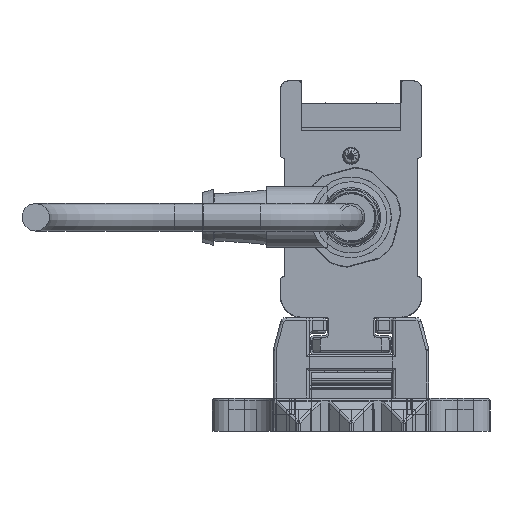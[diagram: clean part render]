
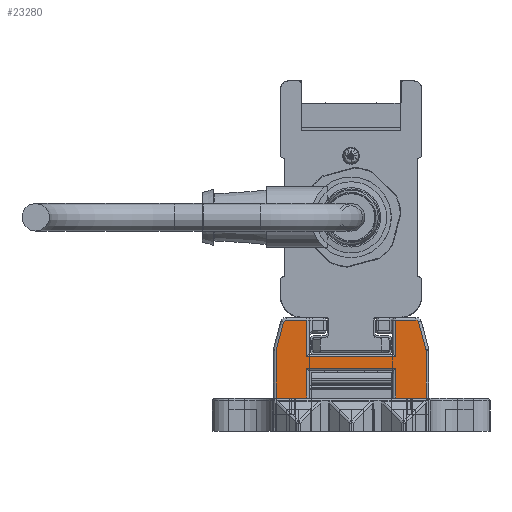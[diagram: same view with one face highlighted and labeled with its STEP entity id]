
A CAD part, left-side view. The second image highlights one B-rep face of the part: STEP entity #23280.
In plain terms, the highlighted planar face has unit normal (-1, 0, 0).
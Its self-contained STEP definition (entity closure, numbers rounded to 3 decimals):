
#23280=ADVANCED_FACE('', (#23290), #23300, .T.);
#141290=AXIS2_PLACEMENT_3D('Ax2Pl3d', #141300, #141310, #141320);
#141530=AXIS2_PLACEMENT_3D('Ax2Pl3d', #141540, #141550, #141560);
#146410=AXIS2_PLACEMENT_3D('Ax2Pl3d', #146420, #146430, #146440);
#151490=AXIS2_PLACEMENT_3D('Ax2Pl3d', #151500, #151510, #151520);
#161170=AXIS2_PLACEMENT_3D('Ax2Pl3d', #161180, #161190, #161200);
#583560=CARTESIAN_POINT('', (-747.669,-3686.345,
331.37));
#141300=CARTESIAN_POINT('HicPkt', (-747.669,-3685.379,
331.111));
#583570=CARTESIAN_POINT('', (-747.669,-3686.379,
331.111));
#583580=CARTESIAN_POINT('', (-747.669,-3685.037,336.255)
);
#583600=CARTESIAN_POINT('', (-747.669,-3685.037,336.255)
);
#583630=CARTESIAN_POINT('', (-747.669,-3684.554,
336.625));
#141540=CARTESIAN_POINT('HicPkt', (-747.669,-3684.554,
336.125));
#583850=CARTESIAN_POINT('', (-747.669,-3686.379,
322.625));
#583860=CARTESIAN_POINT('', (-747.669,-3680.881,
322.625));
#583870=CARTESIAN_POINT('', (-747.669,-3680.881,
322.625));
#583950=CARTESIAN_POINT('', (-747.669,-3664.881,
322.625));
#583960=CARTESIAN_POINT('', (-747.669,-3659.383,
322.625));
#583970=CARTESIAN_POINT('', (-747.669,-3659.383,
322.625));
#146420=CARTESIAN_POINT('HicPkt', (-747.669,-3661.209,
336.125));
#586440=CARTESIAN_POINT('', (-747.669,-3660.726,
336.255));
#586450=CARTESIAN_POINT('', (-747.669,-3661.209,
336.625));
#586460=CARTESIAN_POINT('', (-747.669,-3680.881,
330.025));
#586470=CARTESIAN_POINT('', (-747.669,-3664.881,330.025)
);
#586480=CARTESIAN_POINT('', (-747.669,-3680.881,
330.025));
#586640=CARTESIAN_POINT('', (-747.669,-3680.881,
328.005));
#586650=CARTESIAN_POINT('', (-747.669,-3664.881,
328.005));
#586660=CARTESIAN_POINT('', (-747.669,-3664.881,
328.005));
#586670=CARTESIAN_POINT('', (-747.669,-3680.881,
328.005));
#586690=CARTESIAN_POINT('', (-747.669,-3664.881,
322.625));
#586700=CARTESIAN_POINT('', (-747.669,-3664.881,330.025)
);
#586710=CARTESIAN_POINT('', (-747.669,-3664.881,
336.625));
#587560=CARTESIAN_POINT('', (-747.669,-3664.881,
336.625));
#587570=CARTESIAN_POINT('', (-747.669,-3660.726,
336.255));
#587580=CARTESIAN_POINT('', (-747.669,-3659.417,
331.37));
#587770=CARTESIAN_POINT('', (-747.669,-3659.383,
331.111));
#587780=CARTESIAN_POINT('', (-747.669,-3659.383,
331.111));
#151500=CARTESIAN_POINT('HicPkt', (-747.669,-3660.383,
331.111));
#588590=CARTESIAN_POINT('', (-747.669,-3686.379,
331.111));
#161180=CARTESIAN_POINT('HicPkt', (-747.669,-3684.554,
336.625));
#590390=CARTESIAN_POINT('', (-747.669,-3680.881,
336.625));
#590400=CARTESIAN_POINT('', (-747.669,-3680.881,
336.625));
#590410=CARTESIAN_POINT('', (-747.669,-3680.881,
336.625));
#675070=CIRCLE('Circle', #141290, 1.);
#675110=CIRCLE('Circle', #141530, 0.5);
#675690=CIRCLE('Circle', #146410, 0.5);
#676220=CIRCLE('Circle', #151490, 1.);
#141310=DIRECTION('Axis', (-1.,0.,
0.));
#141320=DIRECTION('RefDirection', (0.,
0.,-1.));
#942570=DIRECTION('', (0.,0.259,
0.966));
#141550=DIRECTION('Axis', (-1.,0.,
0.));
#141560=DIRECTION('RefDirection', (0.,
0.,-1.));
#942680=DIRECTION('', (0.,1.,0.));
#942720=DIRECTION('', (0.,1.,0.));
#146430=DIRECTION('Axis', (1.,0.,
0.));
#146440=DIRECTION('RefDirection', (0.,
0.,-1.));
#943910=DIRECTION('', (0.,-1.,0.));
#944010=DIRECTION('', (0.,1.,0.));
#944020=DIRECTION('', (0.,0.,1.));
#944040=DIRECTION('', (0.,0.,-1.));
#944050=DIRECTION('', (0.,0.,-1.));
#944480=DIRECTION('', (0.,-1.,0.));
#944490=DIRECTION('', (0.,-0.259,0.966));
#944580=DIRECTION('', (0.,0.,1.));
#151510=DIRECTION('Axis', (1.,0.,
0.));
#151520=DIRECTION('RefDirection', (0.,
0.,-1.));
#944950=DIRECTION('', (0.,0.,1.));
#161190=DIRECTION('Axis', (-1.,0.,
0.));
#161200=DIRECTION('RefDirection', (0.,
0.,-1.));
#945790=DIRECTION('', (0.,1.,0.));
#945800=DIRECTION('', (0.,0.,1.));
#1009400=EDGE_CURVE('', #1009410, #1009390, #675070, .T.);
#1009460=EDGE_CURVE('', #1009390, #1009440, #1009470, .T.);
#1009530=EDGE_CURVE('', #1009440, #1009520, #675110, .T.);
#1009980=EDGE_CURVE('', #1009970, #1009990, #1010000, .T.);
#1010140=EDGE_CURVE('', #1010130, #1010150, #1010160, .T.);
#1014500=EDGE_CURVE('', #1014510, #1014520, #675690, .T.);
#1014550=EDGE_CURVE('', #1014560, #1014570, #1014580, .T.);
#1014920=EDGE_CURVE('', #1014900, #1014930, #1014940, .T.);
#1014970=EDGE_CURVE('', #1009990, #1014900, #1014980, .T.);
#1015010=EDGE_CURVE('', #1014930, #1010130, #1015020, .T.);
#1015030=EDGE_CURVE('', #1015040, #1014560, #1015050, .T.);
#1016870=EDGE_CURVE('', #1014520, #1015040, #1016880, .T.);
#1016940=EDGE_CURVE('', #1016950, #1014510, #1016960, .T.);
#1017380=EDGE_CURVE('', #1010150, #1017390, #1017400, .T.);
#1017420=EDGE_CURVE('', #1017390, #1016950, #676220, .T.);
#1019130=EDGE_CURVE('', #1009970, #1009410, #1019140, .T.);
#1022940=EDGE_CURVE('', #1009520, #1022950, #1022960, .T.);
#1022970=EDGE_CURVE('', #1014570, #1022950, #1022980, .T.);
#1216860=EDGE_LOOP('Edge_loop', (#1216870,#1216880,#1216890,#1216900,
#1216910,#1216920,#1216930,#1216940,#1216950,#1216960,#1216970,
#1216980,#1216990,#1217000,#1217010,#1217020,#1217030,#1217040));
#23290=FACE_OUTER_BOUND('Face_outer_bound', #1216860, .T.);
#1009470=LINE('Line', #583600, #1391440);
#1010000=LINE('Line', #583860, #1391550);
#1010160=LINE('Line', #583960, #1391590);
#1014580=LINE('Line', #586460, #1392780);
#1014940=LINE('Line', #586650, #1392880);
#1014980=LINE('Line', #586670, #1392890);
#1015020=LINE('Line', #586690, #1392910);
#1015050=LINE('Line', #586700, #1392920);
#1016880=LINE('Line', #587560, #1393350);
#1016960=LINE('Line', #587570, #1393360);
#1017400=LINE('Line', #587770, #1393450);
#1019140=LINE('Line', #588590, #1393820);
#1022960=LINE('Line', #590390, #1394660);
#1022980=LINE('Line', #590410, #1394670);
#1216870=ORIENTED_EDGE('', *, *, #1022940, .T.);
#1216880=ORIENTED_EDGE('', *, *, #1022970, .F.);
#1216890=ORIENTED_EDGE('', *, *, #1014550, .F.);
#1216900=ORIENTED_EDGE('', *, *, #1015030, .F.);
#1216910=ORIENTED_EDGE('', *, *, #1016870, .F.);
#1216920=ORIENTED_EDGE('', *, *, #1014500, .F.);
#1216930=ORIENTED_EDGE('', *, *, #1016940, .F.);
#1216940=ORIENTED_EDGE('', *, *, #1017420, .F.);
#1216950=ORIENTED_EDGE('', *, *, #1017380, .F.);
#1216960=ORIENTED_EDGE('', *, *, #1010140, .F.);
#1216970=ORIENTED_EDGE('', *, *, #1015010, .F.);
#1216980=ORIENTED_EDGE('', *, *, #1014920, .F.);
#1216990=ORIENTED_EDGE('', *, *, #1014970, .F.);
#1217000=ORIENTED_EDGE('', *, *, #1009980, .F.);
#1217010=ORIENTED_EDGE('', *, *, #1019130, .T.);
#1217020=ORIENTED_EDGE('', *, *, #1009400, .T.);
#1217030=ORIENTED_EDGE('', *, *, #1009460, .T.);
#1217040=ORIENTED_EDGE('', *, *, #1009530, .T.);
#23300=PLANE('Plane', #161170);
#1391440=VECTOR('', #942570, 5.057);
#1391550=VECTOR('', #942680, 5.498);
#1391590=VECTOR('', #942720, 5.498);
#1392780=VECTOR('', #943910, 16.);
#1392880=VECTOR('', #944010, 16.);
#1392890=VECTOR('', #944020, 5.38);
#1392910=VECTOR('', #944040, 5.38);
#1392920=VECTOR('', #944050, 6.6);
#1393350=VECTOR('', #944480, 3.672);
#1393360=VECTOR('', #944490, 5.057);
#1393450=VECTOR('', #944580, 8.486);
#1393820=VECTOR('', #944950, 8.486);
#1394660=VECTOR('', #945790, 3.672);
#1394670=VECTOR('', #945800, 6.6);
#1009390=VERTEX_POINT('', #583560);
#1009410=VERTEX_POINT('', #583570);
#1009440=VERTEX_POINT('', #583580);
#1009520=VERTEX_POINT('', #583630);
#1009970=VERTEX_POINT('', #583850);
#1009990=VERTEX_POINT('', #583870);
#1010130=VERTEX_POINT('', #583950);
#1010150=VERTEX_POINT('', #583970);
#1014510=VERTEX_POINT('', #586440);
#1014520=VERTEX_POINT('', #586450);
#1014560=VERTEX_POINT('', #586470);
#1014570=VERTEX_POINT('', #586480);
#1014900=VERTEX_POINT('', #586640);
#1014930=VERTEX_POINT('', #586660);
#1015040=VERTEX_POINT('', #586710);
#1016950=VERTEX_POINT('', #587580);
#1017390=VERTEX_POINT('', #587780);
#1022950=VERTEX_POINT('', #590400);
